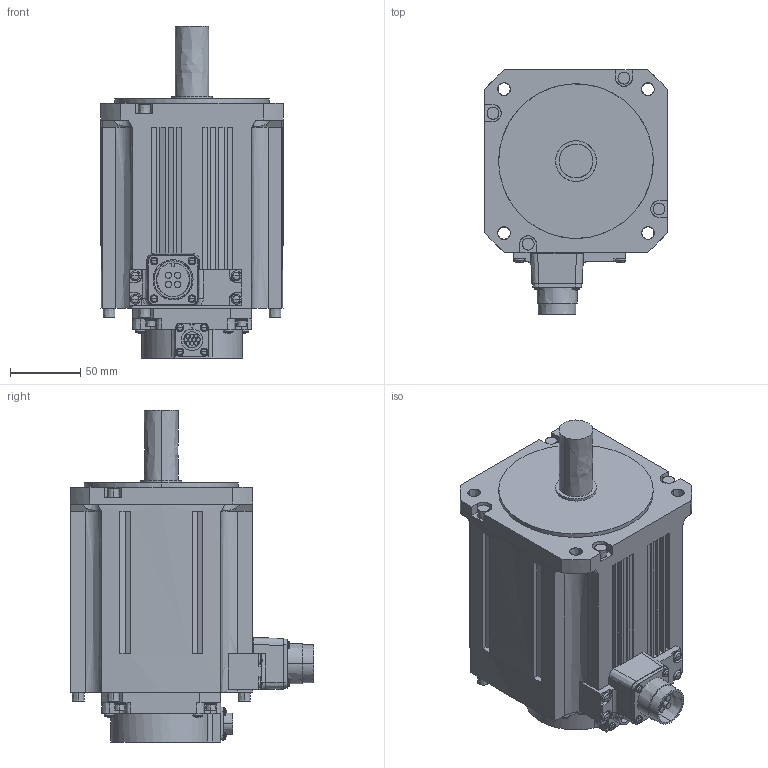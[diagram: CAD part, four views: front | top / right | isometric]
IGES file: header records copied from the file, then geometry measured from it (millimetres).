
Start section:  PTC IGES file: hk-st302w_.igs
Global section: file name: hk-st302w_.igs; native system: Creo Parametric by PTC Inc.; preprocessor: 2016380; author: XE90682; organization: Unknown; date: 20190117.162017; units: millimetre
Bounding box: 130 x 173.8 x 236.5 mm (x, y, z)
Volume: 2453205.1 mm3; surface area: 145977 mm2
Topology: 1 solids, 1 shells, 507 faces, 1241 edges, 782 vertices
Faces by surface type: bspline 507
